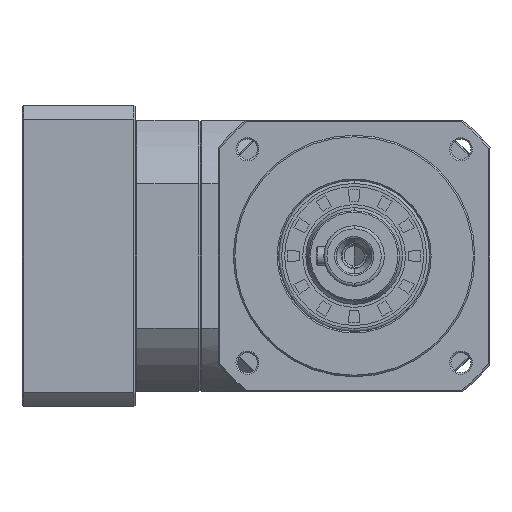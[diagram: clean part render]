
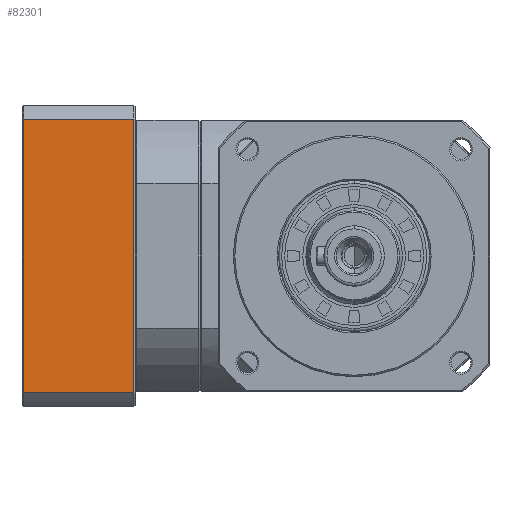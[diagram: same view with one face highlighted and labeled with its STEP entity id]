
A CAD part, left-side view. The second image highlights one B-rep face of the part: STEP entity #82301.
In plain terms, the highlighted planar face has unit normal (-1, 0, 0).
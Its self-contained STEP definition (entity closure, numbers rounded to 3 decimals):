
#3383 = ORIENTED_EDGE ( 'NONE', *, *, #89973, .F. ) ;
#3657 = LINE ( 'NONE', #77305, #5905 ) ;
#5905 = VECTOR ( 'NONE', #34302, 1000. ) ;
#7501 = DIRECTION ( 'NONE',  ( -1., 0., 0. ) ) ;
#9457 = VECTOR ( 'NONE', #61762, 1000. ) ;
#12721 = DIRECTION ( 'NONE',  ( 0., 0., -1. ) ) ;
#13420 = DIRECTION ( 'NONE',  ( 0., 0., -1. ) ) ;
#13709 = EDGE_CURVE ( 'NONE', #88968, #58896, #3657, .T. ) ;
#15666 = PLANE ( 'NONE',  #84801 ) ;
#17878 = CARTESIAN_POINT ( 'NONE',  ( 69., 73., -45.346 ) ) ;
#18173 = CARTESIAN_POINT ( 'NONE',  ( 69., 73., 45.346 ) ) ;
#19898 = CARTESIAN_POINT ( 'NONE',  ( 69., 109.5, 0. ) ) ;
#20921 = ORIENTED_EDGE ( 'NONE', *, *, #13709, .F. ) ;
#22626 = CARTESIAN_POINT ( 'NONE',  ( 69., 109.5, -45.346 ) ) ;
#23299 = LINE ( 'NONE', #62937, #24480 ) ;
#24480 = VECTOR ( 'NONE', #13420, 1000. ) ;
#29336 = ORIENTED_EDGE ( 'NONE', *, *, #60558, .T. ) ;
#32242 = VERTEX_POINT ( 'NONE', #22626 ) ;
#34302 = DIRECTION ( 'NONE',  ( 0., -1., 0. ) ) ;
#36771 = CARTESIAN_POINT ( 'NONE',  ( 69., 109.5, 45.346 ) ) ;
#38275 = LINE ( 'NONE', #19898, #91097 ) ;
#58896 = VERTEX_POINT ( 'NONE', #18173 ) ;
#60558 = EDGE_CURVE ( 'NONE', #88968, #32242, #38275, .T. ) ;
#61762 = DIRECTION ( 'NONE',  ( 0., 1., 0. ) ) ;
#62398 = CARTESIAN_POINT ( 'NONE',  ( 69., 91.25, -45.346 ) ) ;
#62937 = CARTESIAN_POINT ( 'NONE',  ( 69., 73., 0. ) ) ;
#65335 = EDGE_CURVE ( 'NONE', #82163, #32242, #82433, .T. ) ;
#65826 = DIRECTION ( 'NONE',  ( 0., 0., 1. ) ) ;
#77305 = CARTESIAN_POINT ( 'NONE',  ( 69., 91.25, 45.346 ) ) ;
#78833 = ORIENTED_EDGE ( 'NONE', *, *, #65335, .F. ) ;
#79959 = CARTESIAN_POINT ( 'NONE',  ( 69., 73., -45.346 ) ) ;
#80490 = FACE_OUTER_BOUND ( 'NONE', #80500, .T. ) ;
#80500 = EDGE_LOOP ( 'NONE', ( #78833, #3383, #20921, #29336 ) ) ;
#82163 = VERTEX_POINT ( 'NONE', #17878 ) ;
#82301 = ADVANCED_FACE ( 'NONE', ( #80490 ), #15666, .T. ) ;
#82433 = LINE ( 'NONE', #62398, #9457 ) ;
#84801 = AXIS2_PLACEMENT_3D ( 'NONE', #79959, #7501, #65826 ) ;
#88968 = VERTEX_POINT ( 'NONE', #36771 ) ;
#89973 = EDGE_CURVE ( 'NONE', #58896, #82163, #23299, .T. ) ;
#91097 = VECTOR ( 'NONE', #12721, 1000. ) ;
